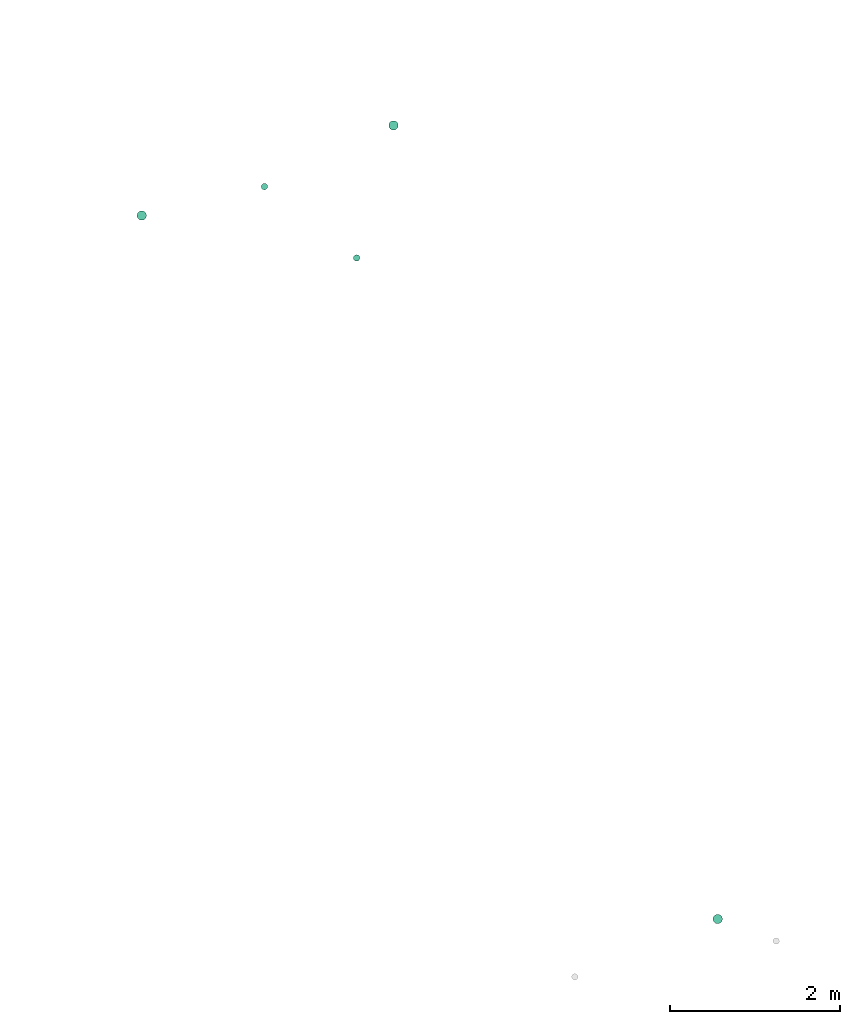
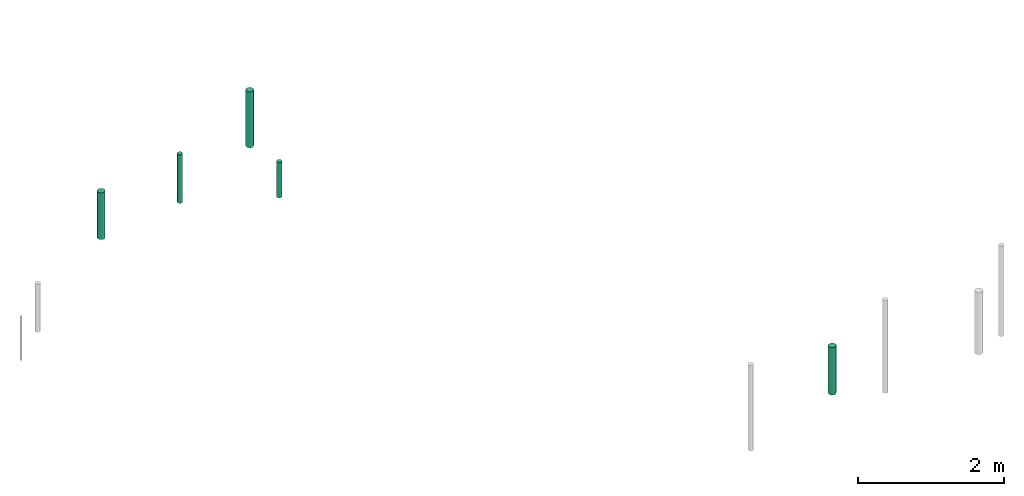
# One storey, part 3 of 3: 5 flow segments.
"""IFC2X3 building model written with IfcOpenShell, lengths in millimetres."""

from ifc_helpers import new_model, entity, si_unit, converted_unit, derived_unit, direction, frame, origin, origin_with_axes, origin_2d_with_axis, place, context, subcontext, project, spatial, circle, extrude, type_object, element, save


model = new_model("IFC2X3")

# Units and contexts
model_context = context("Model", 3, precision=0.01, world=origin(), true_north=direction((6.12323399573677e-17, 1.0)))
plan_context = context("Plan", 3, precision=1e-05, world=origin_with_axes())
body_context = subcontext(model_context, "Body", "Model", "MODEL_VIEW")
ifc_project = project(units=[converted_unit("PLANEANGLEUNIT", "DEGREE", entity("IfcPositiveLengthMeasure", 0.0174532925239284), si_unit("PLANEANGLEUNIT", "RADIAN"), dimensions=[0, 0, 0, 0, 0, 0, 0]), si_unit("AREAUNIT", "SQUARE_METRE"), si_unit("LENGTHUNIT", "METRE", prefix="MILLI"), si_unit("MASSUNIT", "GRAM", prefix="KILO"), si_unit("POWERUNIT", "WATT"), si_unit("PRESSUREUNIT", "PASCAL", prefix="KILO"), si_unit("FORCEUNIT", "NEWTON", prefix="KILO"), si_unit("ELECTRICVOLTAGEUNIT", "VOLT"), si_unit("ELECTRICCURRENTUNIT", "AMPERE"), si_unit("THERMODYNAMICTEMPERATUREUNIT", "DEGREE_CELSIUS"), si_unit("TIMEUNIT", "SECOND"), si_unit("VOLUMEUNIT", "CUBIC_METRE"), derived_unit("LINEARVELOCITYUNIT", [(si_unit("LENGTHUNIT", "METRE"), 1), (si_unit("TIMEUNIT", "SECOND"), -1)]), derived_unit("VOLUMETRICFLOWRATEUNIT", [(si_unit("VOLUMEUNIT", "CUBIC_METRE"), 1), (si_unit("TIMEUNIT", "SECOND"), -1)]), derived_unit("THERMALTRANSMITTANCEUNIT", [(si_unit("POWERUNIT", "WATT"), 1), (si_unit("THERMODYNAMICTEMPERATUREUNIT", "KELVIN"), -1), (si_unit("AREAUNIT", "SQUARE_METRE"), -1)]), derived_unit("SOUNDPRESSUREUNIT", [(si_unit("PRESSUREUNIT", "PASCAL"), 1)])], contexts=[model_context, plan_context])

# Site, building, storey
site_placement = place(None, frame((-0.000710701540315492, 0.00438415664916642, 0.0), z_axis=(0.0, 0.0, 1.0), x_axis=(-0.160236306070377, 0.987078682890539, 0.0)))
site = spatial("IfcSite", under=ifc_project, at=site_placement, Name="Default", CompositionType="ELEMENT")
building_placement = place(site_placement, origin_with_axes())
building = spatial("IfcBuilding", under=site, at=building_placement, CompositionType="ELEMENT")
storey_placement = place(building_placement, frame((0.0, 0.0, 48160.0), z_axis=(0.0, 0.0, 1.0), x_axis=(1.0, 0.0, 0.0)))
storey = spatial("IfcBuildingStorey", under=building, at=storey_placement, Name="Nivå C", CompositionType="ELEMENT", Elevation=48160.0)

# Flow segments
pipe_segment_type = type_object("IfcPipeSegmentType", Name="Pipe Types:MA", PredefinedType="NOTDEFINED")
flow_segment_1_placement = place(storey_placement, origin_with_axes())
element("IfcFlowSegment", 1, at=flow_segment_1_placement, inside=storey, type_object=pipe_segment_type, Name="Pipe Types:MA", ObjectType="Pipe Types:MA", context=body_context, shape_type="SweptSolid", body=[
    extrude(circle(Radius=55.0, at=origin_2d_with_axis()), frame((778572.619644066, -591692.723322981, 2008.56309000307)), (0.0, 0.0, 1.0), 779.936910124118),
])
flow_segment_2_placement = place(storey_placement, origin_with_axes())
element("IfcFlowSegment", 2, at=flow_segment_2_placement, inside=storey, type_object=pipe_segment_type, Name="Pipe Types:MA", ObjectType="Pipe Types:MA", context=body_context, shape_type="SweptSolid", body=[
    extrude(circle(Radius=55.0, at=origin_2d_with_axis()), frame((779143.561274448, -594779.152373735, 1861.63573286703)), (0.0, 0.0, 1.0), 934.382892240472),
])
flow_segment_3_placement = place(storey_placement, origin_with_axes())
element("IfcFlowSegment", 3, at=flow_segment_3_placement, inside=storey, type_object=pipe_segment_type, Name="Pipe Types:MA", ObjectType="Pipe Types:MA", context=body_context, shape_type="SweptSolid", body=[
    extrude(circle(Radius=37.5, at=origin_2d_with_axis()), frame((778677.619644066, -593168.780498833, 1891.09682253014)), (0.0, 0.0, 1.0), 808.903177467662),
])
flow_segment_4_placement = place(storey_placement, origin_with_axes())
element("IfcFlowSegment", 4, at=flow_segment_4_placement, inside=storey, type_object=pipe_segment_type, Name="Pipe Types:MA", ObjectType="Pipe Types:MA", context=body_context, shape_type="SweptSolid", body=[
    extrude(circle(Radius=37.5, at=origin_2d_with_axis()), frame((777677.619644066, -594102.980498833, 2111.06601717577)), (0.0, 0.0, 1.0), 588.933982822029),
])
flow_segment_5_placement = place(storey_placement, origin_with_axes())
element("IfcFlowSegment", 5, at=flow_segment_5_placement, inside=storey, type_object=pipe_segment_type, Name="Pipe Types:MA", ObjectType="Pipe Types:MA", context=body_context, shape_type="SweptSolid", body=[
    extrude(circle(Radius=55.0, at=origin_2d_with_axis()), frame((769337.415143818, -597043.320122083, 2056.94673260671)), (0.0, 0.0, 1.0), 793.053267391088),
])

save(model, "model.ifc")
